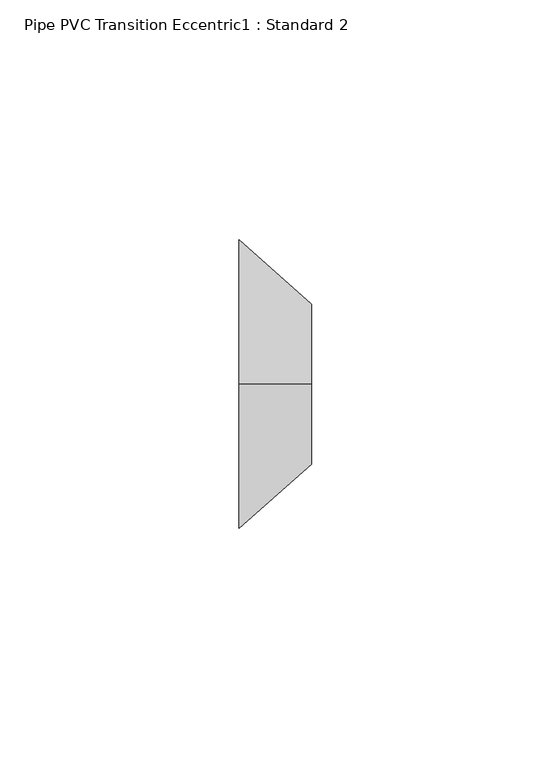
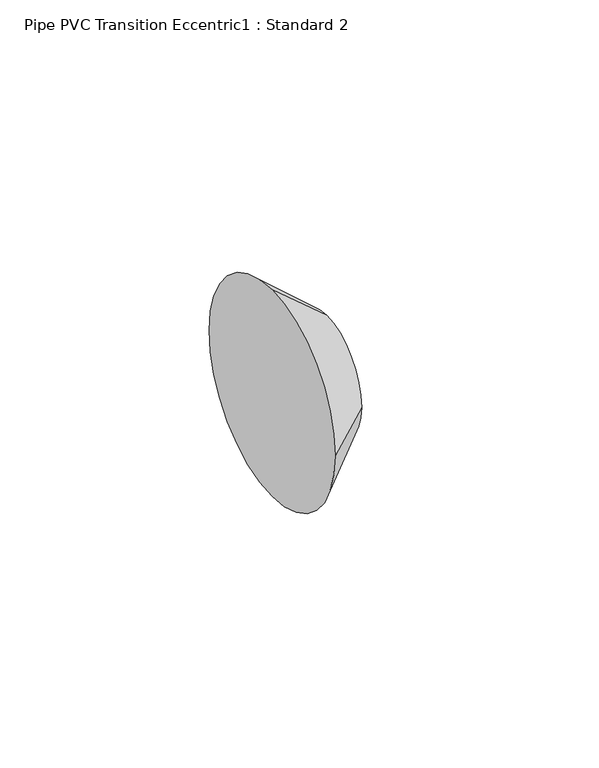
"""IFC4 building model written with IfcOpenShell, lengths in millimetres: pipe fitting geometry, Pipe PVC Transition Eccentric1 : Standard 2."""

from ifc_helpers import new_model, si_unit, frame, origin, place, context, project, spatial, circle_curve, source, transform, mapped, element, save
from ifc_brep_helpers import plane_surface, spline_surface, advanced_brep


def pipe_pvc_transition_eccentric1_standard_2_7b6d9032(model_context):
    return source(origin(), model_context, "Body", "AdvancedBrep", [
        advanced_brep(
        [(15.08125, -79.38266, 17.4361004), (15.08125, -96.08316, 0.7356004), (15.08125, -79.38266, -15.9648996), (15.08125, -62.68216, 0.7356004), (0.0, -79.375, 30.1625), (0.0, -49.2125, 0.0), (0.0, -79.375, -30.1625), (0.0, -109.5375, 0.0)],
        [
            (0, 1, circle_curve(frame((15.08125, -79.38266, 0.7356004), z_axis=(1.0, 0.0, 0.0), x_axis=(0.0, 1.0, 0.0)), 16.7005)),
            (1, 2, circle_curve(frame((15.08125, -79.38266, 0.7356004), z_axis=(1.0, 0.0, 0.0), x_axis=(0.0, 1.0, 0.0)), 16.7005)),
            (2, 3, circle_curve(frame((15.08125, -79.38266, 0.7356004), z_axis=(1.0, 0.0, 0.0), x_axis=(0.0, 1.0, 0.0)), 16.7005)),
            (3, 0, circle_curve(frame((15.08125, -79.38266, 0.7356004), z_axis=(1.0, 0.0, 0.0), x_axis=(0.0, 1.0, 0.0)), 16.7005)),
            (4, 5, circle_curve(frame((0.0, -79.375, 0.0), z_axis=(-1.0, 0.0, 0.0), x_axis=(0.0, 1.0, 0.0)), 30.1625)),
            (5, 6, circle_curve(frame((0.0, -79.375, 0.0), z_axis=(-1.0, 0.0, 0.0), x_axis=(0.0, 1.0, 0.0)), 30.1625)),
            (6, 7, circle_curve(frame((0.0, -79.375, 0.0), z_axis=(-1.0, 0.0, 0.0), x_axis=(0.0, 1.0, 0.0)), 30.1625)),
            (7, 4, circle_curve(frame((0.0, -79.375, 0.0), z_axis=(-1.0, 0.0, 0.0), x_axis=(0.0, 1.0, 0.0)), 30.1625)),
            (7, 1),
            (0, 4),
            (6, 2),
            (5, 3),
        ],
        [
            plane_surface(frame((15.08125, -79.38266, 0.7356004), z_axis=(1.0, 0.0, 0.0), x_axis=(0.0, -1.0, 0.0))),
            plane_surface(frame((0.0, -79.375, 0.0), z_axis=(-1.0, 0.0, 0.0), x_axis=(0.0, -1.0, 0.0))),
            spline_surface(2, 1, [[(0.0, -79.375, 30.1625), (15.08125, -79.38266, 17.4361004)], [(0.0, -109.5375, 30.16250000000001), (15.08125, -96.08316, 17.436100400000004)], [(0.0, -109.5375, 0.0), (15.08125, -96.08316, 0.7356004)]], [3, 3], [2, 2], [0.0, 1.0], [0.0, 1.0], weights=[[1.0, 1.0], [0.7071067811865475, 0.7071067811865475], [1.0, 1.0]]),
            spline_surface(2, 1, [[(0.0, -109.5375, 0.0), (15.08125, -96.08316, 0.7356004)], [(0.0, -109.5375, -30.162499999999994), (15.08125, -96.08316, -15.964899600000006)], [(0.0, -79.375, -30.1625), (15.08125, -79.38266, -15.9648996)]], [3, 3], [2, 2], [0.0, 1.0], [0.0, 1.0], weights=[[1.0, 1.0], [0.7071067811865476, 0.7071067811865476], [1.0, 1.0]]),
            spline_surface(2, 1, [[(0.0, -79.375, -30.1625), (15.08125, -79.38266, -15.9648996)], [(0.0, -49.2125, -30.1625), (15.08125, -62.682159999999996, -15.964899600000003)], [(0.0, -49.2125, 0.0), (15.08125, -62.68216, 0.7356004)]], [3, 3], [2, 2], [0.0, 1.0], [0.0, 1.0], weights=[[1.0, 1.0], [0.7071067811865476, 0.7071067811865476], [1.0, 1.0]]),
            spline_surface(2, 1, [[(0.0, -49.2125, 0.0), (15.08125, -62.68216, 0.7356004)], [(0.0, -49.2125, 30.1625), (15.08125, -62.68216, 17.436100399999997)], [(0.0, -79.375, 30.1625), (15.08125, -79.38266, 17.4361004)]], [3, 3], [2, 2], [0.0, 1.0], [0.0, 1.0], weights=[[1.0, 1.0], [0.7071067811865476, 0.7071067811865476], [1.0, 1.0]]),
        ],
        [
            (0, [[1, 2, 3, 4]]),
            (1, [[5, 6, 7, 8]]),
            (2, [[-8, 9, -1, 10]]),
            (3, [[-7, 11, -2, -9]]),
            (4, [[-6, 12, -3, -11]]),
            (5, [[-5, -10, -4, -12]]),
        ],
    ),
        advanced_brep(
        [(15.08125, -79.38266, 17.4361004), (15.08125, -96.08316, 0.7356004), (15.08125, -79.38266, -15.9648996), (15.08125, -62.68216, 0.7356004), (0.0, -79.375, 30.1625), (0.0, -49.2125, 0.0), (0.0, -79.375, -30.1625), (0.0, -109.5375, 0.0)],
        [
            (0, 1, circle_curve(frame((15.08125, -79.38266, 0.7356004), z_axis=(1.0, 0.0, 0.0), x_axis=(0.0, 1.0, 0.0)), 16.7005)),
            (1, 2, circle_curve(frame((15.08125, -79.38266, 0.7356004), z_axis=(1.0, 0.0, 0.0), x_axis=(0.0, 1.0, 0.0)), 16.7005)),
            (2, 3, circle_curve(frame((15.08125, -79.38266, 0.7356004), z_axis=(1.0, 0.0, 0.0), x_axis=(0.0, 1.0, 0.0)), 16.7005)),
            (3, 0, circle_curve(frame((15.08125, -79.38266, 0.7356004), z_axis=(1.0, 0.0, 0.0), x_axis=(0.0, 1.0, 0.0)), 16.7005)),
            (4, 5, circle_curve(frame((0.0, -79.375, 0.0), z_axis=(-1.0, 0.0, 0.0), x_axis=(0.0, 1.0, 0.0)), 30.1625)),
            (5, 6, circle_curve(frame((0.0, -79.375, 0.0), z_axis=(-1.0, 0.0, 0.0), x_axis=(0.0, 1.0, 0.0)), 30.1625)),
            (6, 7, circle_curve(frame((0.0, -79.375, 0.0), z_axis=(-1.0, 0.0, 0.0), x_axis=(0.0, 1.0, 0.0)), 30.1625)),
            (7, 4, circle_curve(frame((0.0, -79.375, 0.0), z_axis=(-1.0, 0.0, 0.0), x_axis=(0.0, 1.0, 0.0)), 30.1625)),
            (7, 1),
            (0, 4),
            (6, 2),
            (5, 3),
        ],
        [
            plane_surface(frame((15.08125, -79.38266, 0.7356004), z_axis=(1.0, 0.0, 0.0), x_axis=(0.0, -1.0, 0.0))),
            plane_surface(frame((0.0, -79.375, 0.0), z_axis=(-1.0, 0.0, 0.0), x_axis=(0.0, -1.0, 0.0))),
            spline_surface(2, 1, [[(0.0, -79.375, 30.1625), (15.08125, -79.38266, 17.4361004)], [(0.0, -109.5375, 30.16250000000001), (15.08125, -96.08316, 17.436100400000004)], [(0.0, -109.5375, 0.0), (15.08125, -96.08316, 0.7356004)]], [3, 3], [2, 2], [0.0, 1.0], [0.0, 1.0], weights=[[1.0, 1.0], [0.7071067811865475, 0.7071067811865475], [1.0, 1.0]]),
            spline_surface(2, 1, [[(0.0, -109.5375, 0.0), (15.08125, -96.08316, 0.7356004)], [(0.0, -109.5375, -30.162499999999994), (15.08125, -96.08316, -15.964899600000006)], [(0.0, -79.375, -30.1625), (15.08125, -79.38266, -15.9648996)]], [3, 3], [2, 2], [0.0, 1.0], [0.0, 1.0], weights=[[1.0, 1.0], [0.7071067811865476, 0.7071067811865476], [1.0, 1.0]]),
            spline_surface(2, 1, [[(0.0, -79.375, -30.1625), (15.08125, -79.38266, -15.9648996)], [(0.0, -49.2125, -30.1625), (15.08125, -62.682159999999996, -15.964899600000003)], [(0.0, -49.2125, 0.0), (15.08125, -62.68216, 0.7356004)]], [3, 3], [2, 2], [0.0, 1.0], [0.0, 1.0], weights=[[1.0, 1.0], [0.7071067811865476, 0.7071067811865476], [1.0, 1.0]]),
            spline_surface(2, 1, [[(0.0, -49.2125, 0.0), (15.08125, -62.68216, 0.7356004)], [(0.0, -49.2125, 30.1625), (15.08125, -62.68216, 17.436100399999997)], [(0.0, -79.375, 30.1625), (15.08125, -79.38266, 17.4361004)]], [3, 3], [2, 2], [0.0, 1.0], [0.0, 1.0], weights=[[1.0, 1.0], [0.7071067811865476, 0.7071067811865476], [1.0, 1.0]]),
        ],
        [
            (0, [[1, 2, 3, 4]]),
            (1, [[5, 6, 7, 8]]),
            (2, [[-8, 9, -1, 10]]),
            (3, [[-7, 11, -2, -9]]),
            (4, [[-6, 12, -3, -11]]),
            (5, [[-5, -10, -4, -12]]),
        ],
    ),
    ])


if __name__ == "__main__":
    model = new_model("IFC4")
    model_context = context("Model", 3, world=origin())
    ifc_project = project(units=[si_unit("LENGTHUNIT", "METRE", prefix="MILLI")], contexts=[model_context])
    site = spatial("IfcSite", under=ifc_project)
    building = spatial("IfcBuilding", under=site)
    placement = place(None, origin())
    pipe_pvc_transition_eccentric1_standard_2_shape = pipe_pvc_transition_eccentric1_standard_2_7b6d9032(model_context)
    element("IfcPipeFitting", 1, ObjectType="Pipe PVC Transition Eccentric1 : Standard 2", at=placement, inside=building, context=model_context, shape_type="MappedRepresentation", body=[
        mapped(pipe_pvc_transition_eccentric1_standard_2_shape, transform((0.0, 0.0, 0.0), x_axis=(1.0, 0.0, 0.0), y_axis=(0.0, 1.0, 0.0), z_axis=(0.0, 0.0, 1.0))),
    ])
    save(model, "model.ifc")
